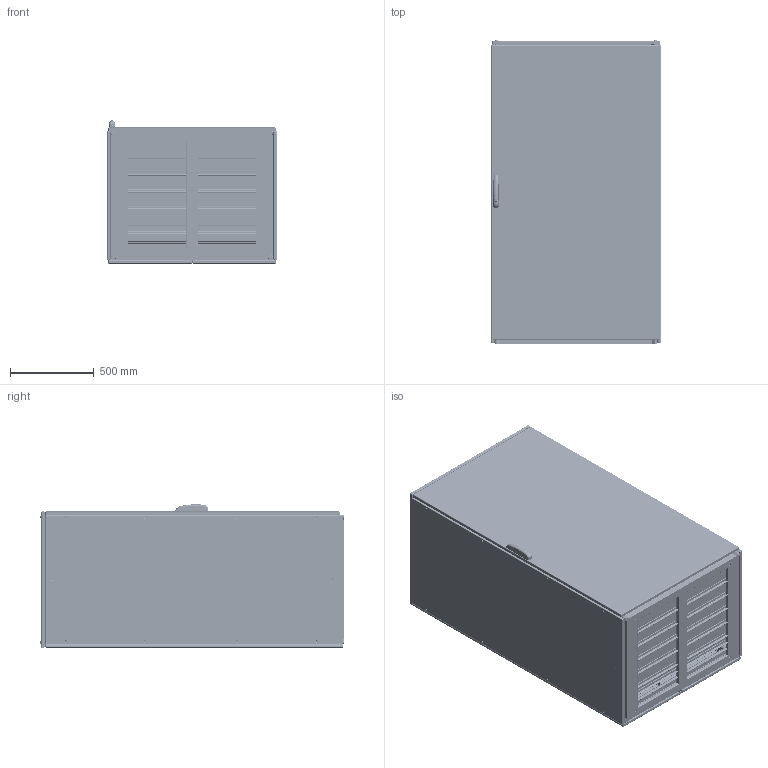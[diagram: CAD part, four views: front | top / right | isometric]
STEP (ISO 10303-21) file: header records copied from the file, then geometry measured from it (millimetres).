
FILE_DESCRIPTION (( 'STEP AP203' ), '1' );
FILE_NAME ('ENUX101808PR.STEP', '2025-05-29T07:16:34', ( '' ), ( '' ), 'SwSTEP 2.0', 'SolidWorks 2022', '' );
FILE_SCHEMA (( 'CONFIG_CONTROL_DESIGN' ));
Length unit declared in the file: millimetre
Products named in the file (14): AR_ENUX_montaggio_porta_singlola_2.0_1000x1800_ANT_DX; AR_ENUX_Retro_CB_1000x1800; AR_ENUX_Fianco_0800x1800_SX; AR_ENUX_Tegolino_1000x0100; AR_ENUX_Tegolino_1600x0100; AR_ENUX_Retro_IB_1000x1800; AR_ENUX_Fianco_0800x1800_DX; AR_ENUX_Vite_tetto; AR_ENUX_nuova_maniglia_mesan; AR_ENUX_Porta_singola_2.0_1000x1800_ANT; AR_ENUX_Tetto_1000x0800; AR_ENUX_Tegolino_1000x0050; AR_ENUX_Struttura_1000x1800x0800; ENUX101808PR
Assembly tree (27 placements, depth 3):
  ENUX101808PR
    AR_ENUX_Struttura_1000x1800x0800
    AR_ENUX_montaggio_porta_singlola_2.0_1000x1800_ANT_DX
      AR_ENUX_Porta_singola_2.0_1000x1800_ANT
      AR_ENUX_nuova_maniglia_mesan
    AR_ENUX_Fianco_0800x1800_SX
    AR_ENUX_Fianco_0800x1800_DX
    AR_ENUX_Tetto_1000x0800
    AR_ENUX_Vite_tetto  x4
    AR_ENUX_Tegolino_1000x0050  x4
    AR_ENUX_Tegolino_1000x0100  x9
    AR_ENUX_Tegolino_1600x0100
    AR_ENUX_Retro_CB_1000x1800
    AR_ENUX_Retro_IB_1000x1800
Bounding box: 1012 x 1815.1 x 857 mm (x, y, z)
Volume: 16115196.3 mm3; surface area: 24359844.4 mm2
Topology: 26 solids, 27 shells, 10462 faces, 29120 edges, 18611 vertices
Faces by surface type: plane 5856, cylinder 3591, bspline 365, torus 305, cone 260, sphere 85
Entity records: 358973 total; most frequent: CARTESIAN_POINT 95982, ORIENTED_EDGE 54408, DIRECTION 52164, EDGE_CURVE 27204, VECTOR 18748, LINE 18748, VERTEX_POINT 17653, AXIS2_PLACEMENT_3D 16708
